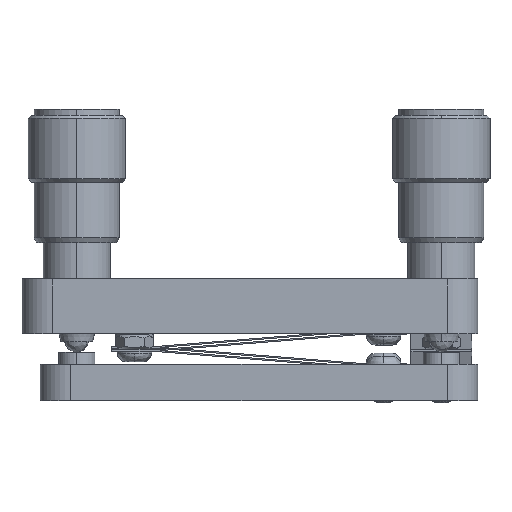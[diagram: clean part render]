
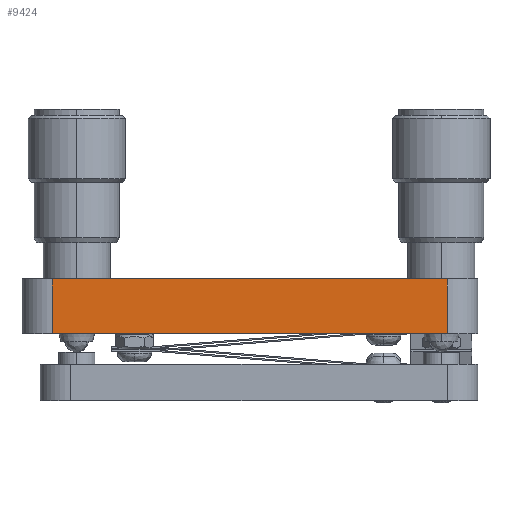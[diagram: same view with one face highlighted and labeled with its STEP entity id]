
A CAD part, left-side view. The second image highlights one B-rep face of the part: STEP entity #9424.
In plain terms, the highlighted planar face has unit normal (-1, 0, 0).
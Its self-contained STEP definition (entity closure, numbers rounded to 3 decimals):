
#9250 = VERTEX_POINT ( 'NONE', #17225 ) ;
#9305 = EDGE_CURVE ( 'NONE', #9306, #9250, #17298, .T. ) ;
#9306 = VERTEX_POINT ( 'NONE', #17294 ) ;
#9402 = ORIENTED_EDGE ( 'NONE', *, *, #9305, .T. ) ;
#9403 = ORIENTED_EDGE ( 'NONE', *, *, #9404, .F. ) ;
#9404 = EDGE_CURVE ( 'NONE', #9405, #9250, #17428, .T. ) ;
#9405 = VERTEX_POINT ( 'NONE', #17424 ) ;
#9406 = ORIENTED_EDGE ( 'NONE', *, *, #9407, .T. ) ;
#9407 = EDGE_CURVE ( 'NONE', #9405, #9428, #17423, .T. ) ;
#9424 = ADVANCED_FACE ( 'NONE', ( #17460 ), #17459, .T. ) ;
#9425 = EDGE_LOOP ( 'NONE', ( #9426, #9402, #9403, #9406 ) ) ;
#9426 = ORIENTED_EDGE ( 'NONE', *, *, #9427, .F. ) ;
#9427 = EDGE_CURVE ( 'NONE', #9306, #9428, #17454, .T. ) ;
#9428 = VERTEX_POINT ( 'NONE', #17450 ) ;
#17225 = CARTESIAN_POINT ( 'NONE',  ( 3., 5., 0. ) ) ;
#17294 = CARTESIAN_POINT ( 'NONE',  ( 3., 70., 0. ) ) ;
#17295 = DIRECTION ( 'NONE',  ( 0., -1., 0. ) ) ;
#17296 = VECTOR ( 'NONE', #17295, 1000. ) ;
#17297 = CARTESIAN_POINT ( 'NONE',  ( 3., 75., 0. ) ) ;
#17298 = LINE ( 'NONE', #17297, #17296 ) ;
#17420 = DIRECTION ( 'NONE',  ( 0., 1., 0. ) ) ;
#17421 = VECTOR ( 'NONE', #17420, 1000. ) ;
#17422 = CARTESIAN_POINT ( 'NONE',  ( 3., 37.5, 9. ) ) ;
#17423 = LINE ( 'NONE', #17422, #17421 ) ;
#17424 = CARTESIAN_POINT ( 'NONE',  ( 3., 5., 9. ) ) ;
#17425 = DIRECTION ( 'NONE',  ( 0., 0., -1. ) ) ;
#17426 = VECTOR ( 'NONE', #17425, 1000. ) ;
#17427 = CARTESIAN_POINT ( 'NONE',  ( 3., 5., 9. ) ) ;
#17428 = LINE ( 'NONE', #17427, #17426 ) ;
#17450 = CARTESIAN_POINT ( 'NONE',  ( 3., 70., 9. ) ) ;
#17451 = DIRECTION ( 'NONE',  ( 0., 0., 1. ) ) ;
#17452 = VECTOR ( 'NONE', #17451, 1000. ) ;
#17453 = CARTESIAN_POINT ( 'NONE',  ( 3., 70., 9. ) ) ;
#17454 = LINE ( 'NONE', #17453, #17452 ) ;
#17455 = DIRECTION ( 'NONE',  ( 0., -1., 0. ) ) ;
#17456 = DIRECTION ( 'NONE',  ( -1., 0., 0. ) ) ;
#17457 = CARTESIAN_POINT ( 'NONE',  ( 3., 75., 9. ) ) ;
#17458 = AXIS2_PLACEMENT_3D ( 'NONE', #17457, #17456, #17455 ) ;
#17459 = PLANE ( 'NONE',  #17458 ) ;
#17460 = FACE_OUTER_BOUND ( 'NONE', #9425, .T. ) ;
